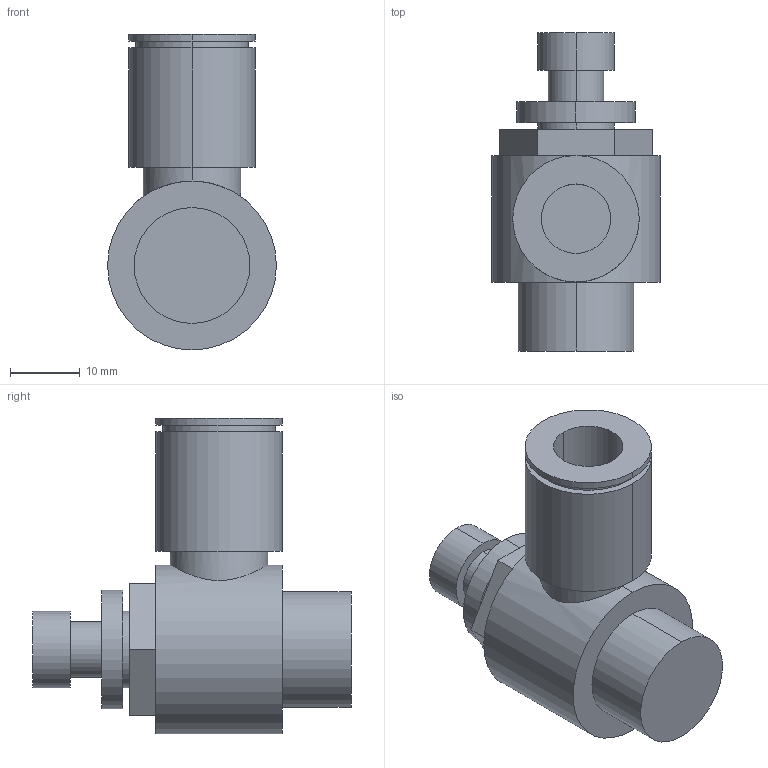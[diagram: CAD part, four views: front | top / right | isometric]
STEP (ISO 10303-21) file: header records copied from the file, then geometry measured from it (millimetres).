
FILE_DESCRIPTION( ( '' ), '1' );
FILE_NAME( 'G:/SMC狟婥/AS3201F-03-10SA.stp', '2023-03-07T03:52:38', ( '' ), ( '' ), ' ', ' ', ' ' );
FILE_SCHEMA( ( 'CONFIG_CONTROL_DESIGN' ) );
Length unit declared in the file: millimetre
Products named in the file (1): 1
Bounding box: 24.3 x 45.8 x 45.45 mm (x, y, z)
Volume: 16970.3 mm3; surface area: 6130.3 mm2
Topology: 1 solids, 1 shells, 41 faces, 86 edges, 57 vertices
Faces by surface type: cylinder 22, plane 19
Entity records: 1219 total; most frequent: CARTESIAN_POINT 252, DIRECTION 209, ORIENTED_EDGE 172, EDGE_CURVE 86, AXIS2_PLACEMENT_3D 84, VERTEX_POINT 57, EDGE_LOOP 51, CIRCLE 42
